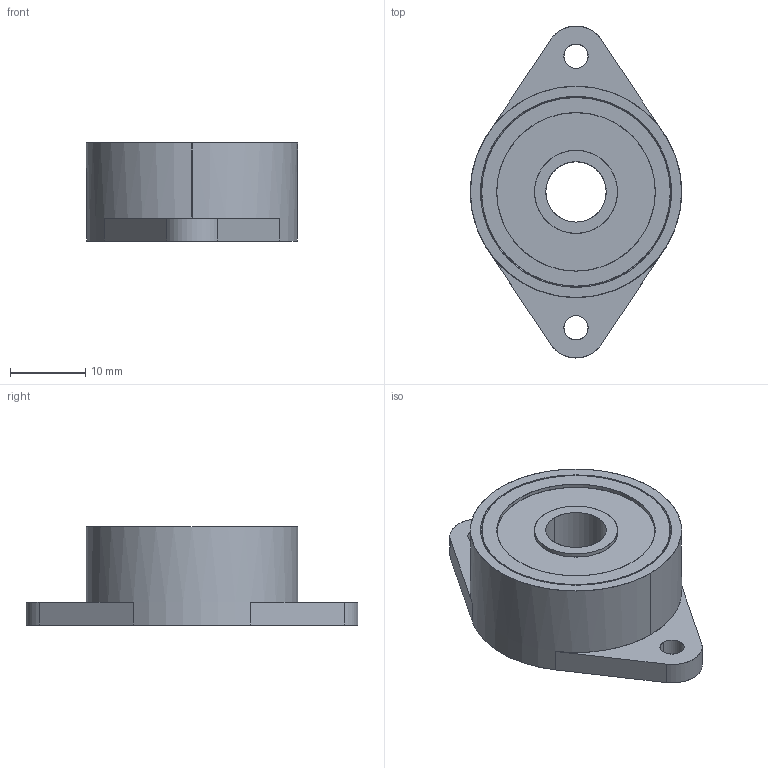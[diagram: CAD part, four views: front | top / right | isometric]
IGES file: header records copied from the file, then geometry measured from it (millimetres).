
Start section: SolidWorks IGES file using analytic representation for surfaces
Global section: file name: C:\3D-DATA\型式\R\【提出用】\IGS\FFD-28FS.IGS; native system: SolidWorks 2014; preprocessor: SolidWorks 2014; author: flgijutsu; date: 140516.195207; units: millimetre
Bounding box: 28 x 44 x 13 mm (x, y, z)
Surface area: 3570.7 mm2 (no closed solid volume)
Topology: 0 solids, 0 shells, 100 faces, 1284 edges, 1284 vertices
Faces by surface type: revolution 65, bspline 35
